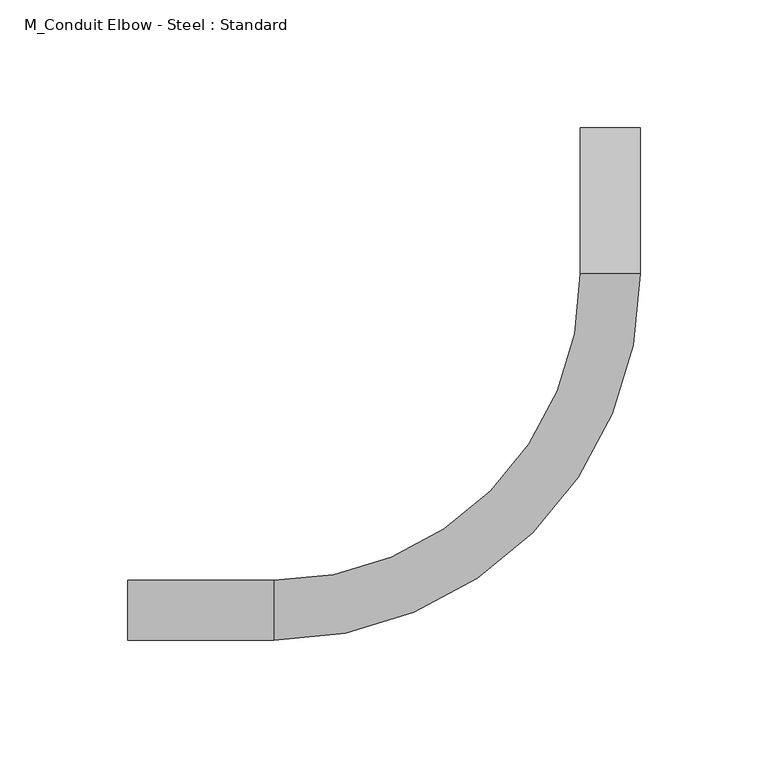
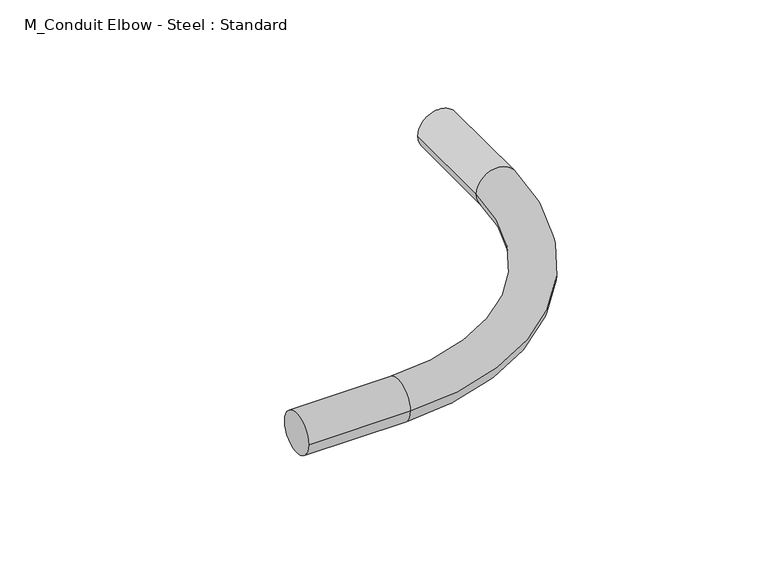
"""IFC4 building model written with IfcOpenShell, lengths in millimetres: cable carrier fitting geometry, M_Conduit Elbow - Steel : Standard."""

from ifc_helpers import new_model, si_unit, point, frame, origin, place, context, project, spatial, circle_curve, ellipse_curve, trimmed, source, transform, mapped, element, save
from ifc_brep_helpers import plane_surface, cylinder_surface, revolved_surface, advanced_brep


def m_conduit_elbow_steel_standard_af66ae09(model_context):
    return source(origin(), model_context, "Body", "AdvancedBrep", [
        advanced_brep(
        [(-188.9199321, -11.7094, 0.0), (-188.9199321, 11.7094, 0.0), (-131.7699321, -11.7094, 0.0), (-131.7699321, 11.7094, 0.0), (-11.7168322, 131.7692714, 0.0), (11.7019677, 131.7705923, 0.0), (11.6987443, 188.9205922, 0.0), (-11.7200557, 188.9192713, 0.0)],
        [
            (0, 1, circle_curve(frame((-188.9199321, 0.0, 0.0), z_axis=(-1.0, 0.0, 0.0), x_axis=(0.0, 1.0, 0.0)), 11.7094)),
            (1, 0, circle_curve(frame((-188.9199321, 0.0, 0.0), z_axis=(-1.0, 0.0, 0.0), x_axis=(0.0, 1.0, 0.0)), 11.7094)),
            (0, 2),
            (2, 3, circle_curve(frame((-131.7699321, 0.0, 0.0), z_axis=(-1.0, 0.0, 0.0), x_axis=(0.0, 1.0, 0.0)), 11.7094)),
            (3, 1),
            (3, 2, circle_curve(frame((-131.7699321, 0.0, 0.0), z_axis=(-1.0, 0.0, 0.0), x_axis=(0.0, 1.0, 0.0)), 11.7094)),
            (4, 3, circle_curve(frame((-131.7699321, 131.7625, 0.0), z_axis=(0.0, 0.0, -1.0), x_axis=(0.0, -1.0, 0.0)), 120.0531)),
            (2, 5, circle_curve(frame((-131.7699321, 131.7625, 0.0), z_axis=(0.0, 0.0, 1.0), x_axis=(0.0, -1.0, 0.0)), 143.4719)),
            (5, 4, circle_curve(frame((-0.0074323, 131.7699318, 0.0), z_axis=(5.6403342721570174e-05, -0.9999999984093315, 0.0), x_axis=(-0.9999999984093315, -5.6403342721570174e-05, 0.0)), 11.7094)),
            (4, 5, circle_curve(frame((-0.0074323, 131.7699318, 0.0), z_axis=(5.640334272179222e-05, -0.9999999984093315, 0.0), x_axis=(-0.9999999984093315, -5.640334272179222e-05, 0.0)), 11.7094)),
            (6, 7, circle_curve(frame((-0.0106557, 188.9199318, 0.0), z_axis=(-5.640334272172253e-05, 0.9999999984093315, 0.0), x_axis=(-0.9999999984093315, -5.640334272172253e-05, 0.0)), 11.7094)),
            (7, 6, circle_curve(frame((-0.0106557, 188.9199318, 0.0), z_axis=(-5.640334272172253e-05, 0.9999999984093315, 0.0), x_axis=(-0.9999999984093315, -5.640334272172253e-05, 0.0)), 11.7094)),
            (5, 6),
            (7, 4),
        ],
        [
            plane_surface(frame((-188.9199321, 0.0, 0.0), z_axis=(-1.0, 0.0, 0.0), x_axis=(0.0, 0.0, 1.0))),
            cylinder_surface(frame((-188.9199321, 0.0, 0.0), z_axis=(-1.0, 0.0, 0.0), x_axis=(0.0, 1.0, 0.0)), 11.7094),
            revolved_surface(trimmed(ellipse_curve(frame((-131.7699321, 0.0, 0.0), z_axis=(-1.0, 0.0, 0.0), x_axis=(0.0, 1.0, 0.0)), 11.7094, 11.7094), [point((-131.7699321, -11.7094, 0.0))], [point((-131.7699321, 11.7094, 0.0))], True, "CARTESIAN"), (-131.7699321, 131.7625, 0.0), (0.0, 0.0, 1.0)),
            revolved_surface(trimmed(ellipse_curve(frame((-131.7699321, 0.0, 0.0), z_axis=(-1.0, 0.0, 0.0), x_axis=(0.0, 1.0, 0.0)), 11.7094, 11.7094), [point((-131.7699321, 11.7094, 0.0))], [point((-131.7699321, -11.7094, 0.0))], True, "CARTESIAN"), (-131.7699321, 131.7625, 0.0), (0.0, 0.0, 1.0)),
            plane_surface(frame((-0.0106557, 188.9199318, 0.0), z_axis=(-5.640334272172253e-05, 0.9999999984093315, 0.0), x_axis=(0.0, 0.0, 1.0))),
            cylinder_surface(frame((-0.0074323, 131.7699318, 0.0), z_axis=(5.640334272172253e-05, -0.9999999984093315, 0.0), x_axis=(-0.9999999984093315, -5.640334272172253e-05, 0.0)), 11.7094),
        ],
        [
            (0, [[1, 2]]),
            (1, [[-1, 3, 4, 5]]),
            (1, [[-2, -5, 6, -3]]),
            (2, [[7, -4, 8, 9]]),
            (3, [[-8, -6, -7, 10]]),
            (4, [[11, 12]]),
            (5, [[-9, 13, -12, 14]]),
            (5, [[-10, -14, -11, -13]]),
        ],
    ),
    ])


if __name__ == "__main__":
    model = new_model("IFC4")
    model_context = context("Model", 3, world=origin())
    ifc_project = project(units=[si_unit("LENGTHUNIT", "METRE", prefix="MILLI")], contexts=[model_context])
    site = spatial("IfcSite", under=ifc_project)
    building = spatial("IfcBuilding", under=site)
    placement = place(None, origin())
    m_conduit_elbow_steel_standard_shape = m_conduit_elbow_steel_standard_af66ae09(model_context)
    element("IfcCableCarrierFitting", 1, ObjectType="M_Conduit Elbow - Steel : Standard", at=placement, inside=building, context=model_context, shape_type="MappedRepresentation", body=[
        mapped(m_conduit_elbow_steel_standard_shape, transform((0.0, 0.0, 0.0), x_axis=(1.0, 0.0, 0.0), y_axis=(0.0, 1.0, 0.0), z_axis=(0.0, 0.0, 1.0))),
    ])
    save(model, "model.ifc")
